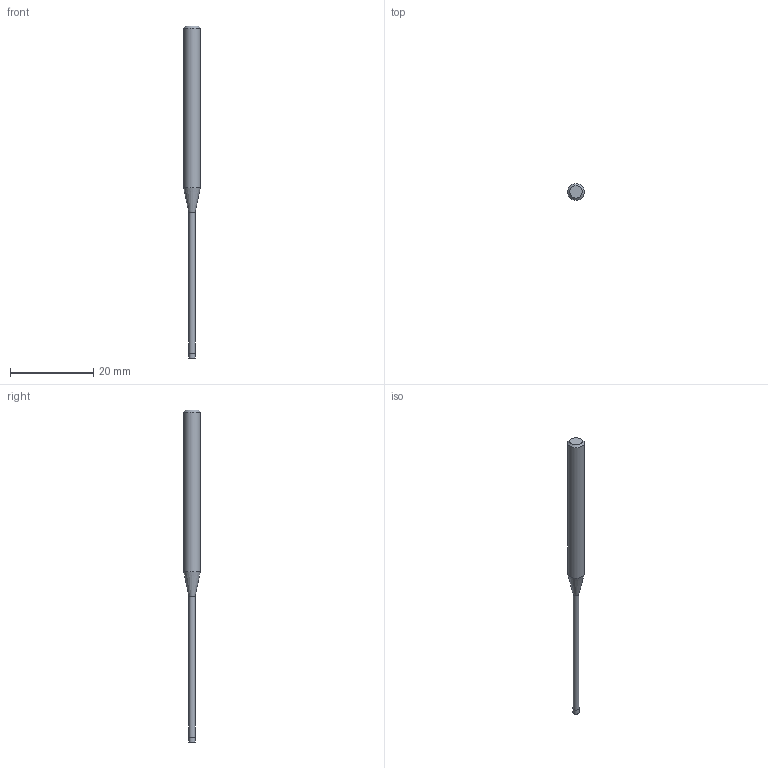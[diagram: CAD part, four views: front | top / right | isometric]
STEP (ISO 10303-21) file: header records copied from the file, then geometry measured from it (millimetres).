
FILE_DESCRIPTION((''),'2;1');
FILE_NAME('C:\Users\nsx150\AppData\Local\Temp\Mastercam 2021\RJ5U8K7RMU\TEMP.step','2021-04-21T16:41:47',(''),(''),'STEP Write','Mastercam 2021 ... CNC Software, Inc.','');
FILE_SCHEMA(('AUTOMOTIVE_DESIGN'));
Length unit declared in the file: millimetre
Products named in the file (1): None
Bounding box: 4 x 4 x 80 mm (x, y, z)
Volume: 584.1 mm3; surface area: 716 mm2
Topology: 2 solids, 2 shells, 9 faces, 12 edges, 7 vertices
Faces by surface type: plane 4, cylinder 3, cone 2
Full cylindrical faces by diameter (mm): 1.45 x1, 1.5 x1, 4 x1
Entity records: 211 total; most frequent: DIRECTION 36, CARTESIAN_POINT 25, AXIS2_PLACEMENT_3D 18, ORIENTED_EDGE 14, EDGE_LOOP 14, STYLED_ITEM 12, ADVANCED_FACE 9, FACE_BOUND 8
